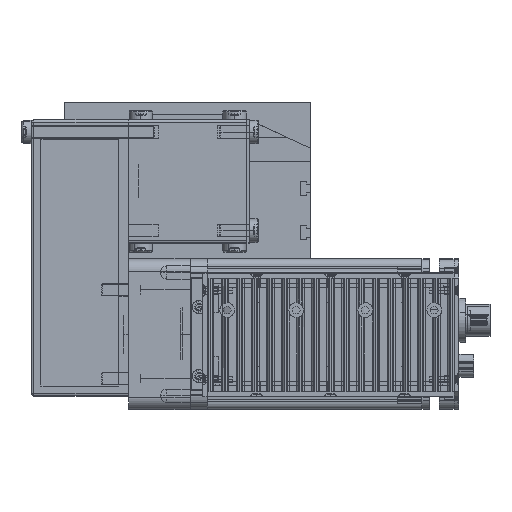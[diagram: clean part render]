
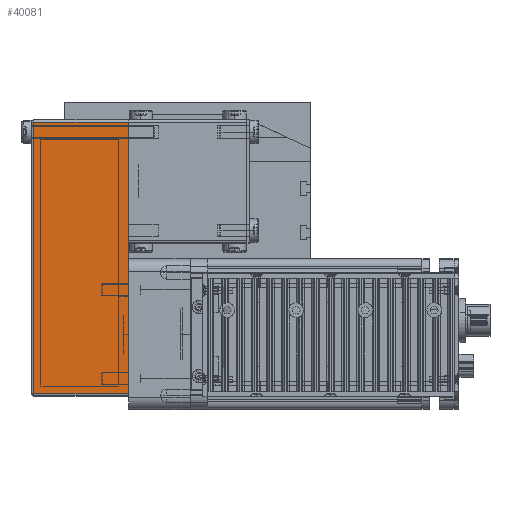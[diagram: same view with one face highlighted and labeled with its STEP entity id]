
A CAD part, top view. The second image highlights one B-rep face of the part: STEP entity #40081.
In plain terms, the highlighted planar face has unit normal (0, 0, 1) as drawn and (0, 1, 0) by its records, which use the part's own axes.
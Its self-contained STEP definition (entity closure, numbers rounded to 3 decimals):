
#22677 = CARTESIAN_POINT ( 'NONE',  ( 61., 25., 38.5 ) ) ;
#22685 = CARTESIAN_POINT ( 'NONE',  ( 61., 25., 0. ) ) ;
#22848 = DIRECTION ( 'NONE',  ( 0., 0., 1. ) ) ;
#22849 = CARTESIAN_POINT ( 'NONE',  ( 61., 25., 39.5 ) ) ;
#22901 = VECTOR ( 'NONE', #22848, 1000. ) ;
#22905 = LINE ( 'NONE', #22849, #22901 ) ;
#24647 = DIRECTION ( 'NONE',  ( -1., 0., 0. ) ) ;
#24648 = VECTOR ( 'NONE', #24647, 1000. ) ;
#24649 = CARTESIAN_POINT ( 'NONE',  ( -50., 25., 0. ) ) ;
#24650 = DIRECTION ( 'NONE',  ( 0., 0., -1. ) ) ;
#24651 = LINE ( 'NONE', #24649, #24648 ) ;
#24655 = PLANE ( 'NONE',  #24676 ) ;
#24663 = LINE ( 'NONE', #24715, #24714 ) ;
#24666 = DIRECTION ( 'NONE',  ( 0., -1., 0. ) ) ;
#24673 = CARTESIAN_POINT ( 'NONE',  ( -50., 25., 39.5 ) ) ;
#24676 = AXIS2_PLACEMENT_3D ( 'NONE', #24673, #24666, #24650 ) ;
#24677 = FACE_OUTER_BOUND ( 'NONE', #37092, .T. ) ;
#24713 = DIRECTION ( 'NONE',  ( -1., 0., 0. ) ) ;
#24714 = VECTOR ( 'NONE', #24713, 1000. ) ;
#24715 = CARTESIAN_POINT ( 'NONE',  ( -50., 25., 38.5 ) ) ;
#31762 = CARTESIAN_POINT ( 'NONE',  ( -49., 25., 38.5 ) ) ;
#32047 = CARTESIAN_POINT ( 'NONE',  ( -49., 25., 39.5 ) ) ;
#32048 = LINE ( 'NONE', #32047, #32124 ) ;
#32123 = DIRECTION ( 'NONE',  ( 0., 0., -1. ) ) ;
#32124 = VECTOR ( 'NONE', #32123, 1000. ) ;
#32126 = CARTESIAN_POINT ( 'NONE',  ( -49., 25., 0. ) ) ;
#34905 = VERTEX_POINT ( 'NONE', #22677 ) ;
#34954 = VERTEX_POINT ( 'NONE', #22685 ) ;
#35875 = EDGE_CURVE ( 'NONE', #34954, #34905, #22905, .T. ) ;
#37092 = EDGE_LOOP ( 'NONE', ( #38460, #37607, #40051, #40061 ) ) ;
#37607 = ORIENTED_EDGE ( 'NONE', *, *, #40085, .F. ) ;
#38460 = ORIENTED_EDGE ( 'NONE', *, *, #47131, .F. ) ;
#40051 = ORIENTED_EDGE ( 'NONE', *, *, #35875, .F. ) ;
#40061 = ORIENTED_EDGE ( 'NONE', *, *, #40082, .T. ) ;
#40081 = ADVANCED_FACE ( 'NONE', ( #24677 ), #24655, .F. ) ;
#40082 = EDGE_CURVE ( 'NONE', #34954, #47157, #24651, .T. ) ;
#40085 = EDGE_CURVE ( 'NONE', #34905, #47030, #24663, .T. ) ;
#47030 = VERTEX_POINT ( 'NONE', #31762 ) ;
#47131 = EDGE_CURVE ( 'NONE', #47030, #47157, #32048, .T. ) ;
#47157 = VERTEX_POINT ( 'NONE', #32126 ) ;
